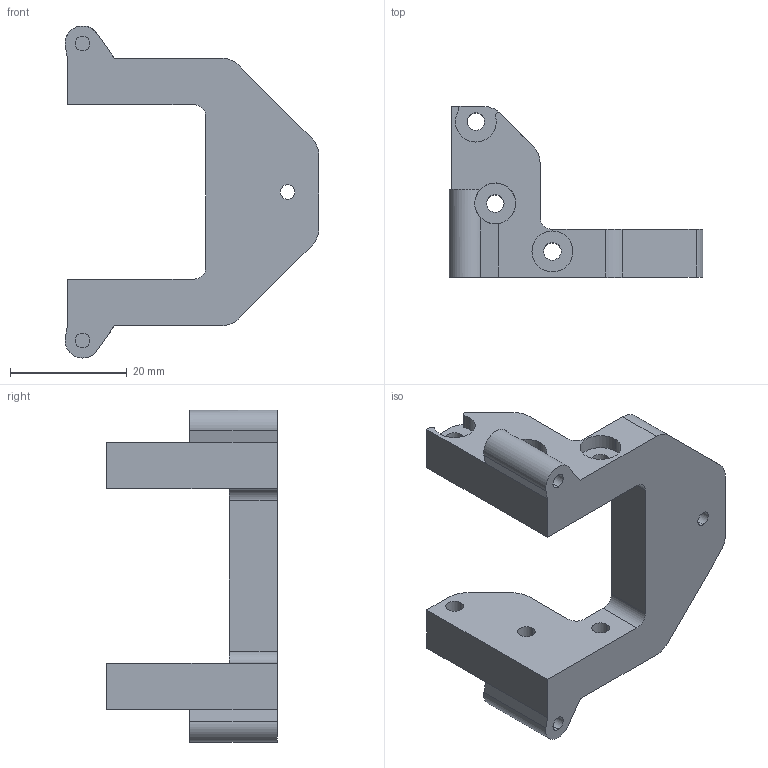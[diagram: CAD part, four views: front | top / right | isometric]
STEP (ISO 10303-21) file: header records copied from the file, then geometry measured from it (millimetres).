
FILE_DESCRIPTION (( 'STEP AP214' ), '1' );
FILE_NAME ('Ì44_ÏÌ_Îïîðà ïåðåäíåé îñè.STEP', '2019-03-21T12:17:20', ( '' ), ( '' ), 'SwSTEP 2.0', 'SolidWorks 2018', '' );
FILE_SCHEMA (( 'AUTOMOTIVE_DESIGN' ));
Length unit declared in the file: millimetre
Products named in the file (1): Ì44_ÏÌ_Îïîðà ïåðåäíåé îñè
Bounding box: 43.43 x 29.2 x 56.79 mm (x, y, z)
Volume: 13015.7 mm3; surface area: 6622.2 mm2
Topology: 1 solids, 1 shells, 85 faces, 235 edges, 156 vertices
Faces by surface type: cylinder 53, plane 32
Entity records: 2853 total; most frequent: CARTESIAN_POINT 523, DIRECTION 507, ORIENTED_EDGE 470, EDGE_CURVE 235, AXIS2_PLACEMENT_3D 192, VERTEX_POINT 156, LINE 123, VECTOR 123
